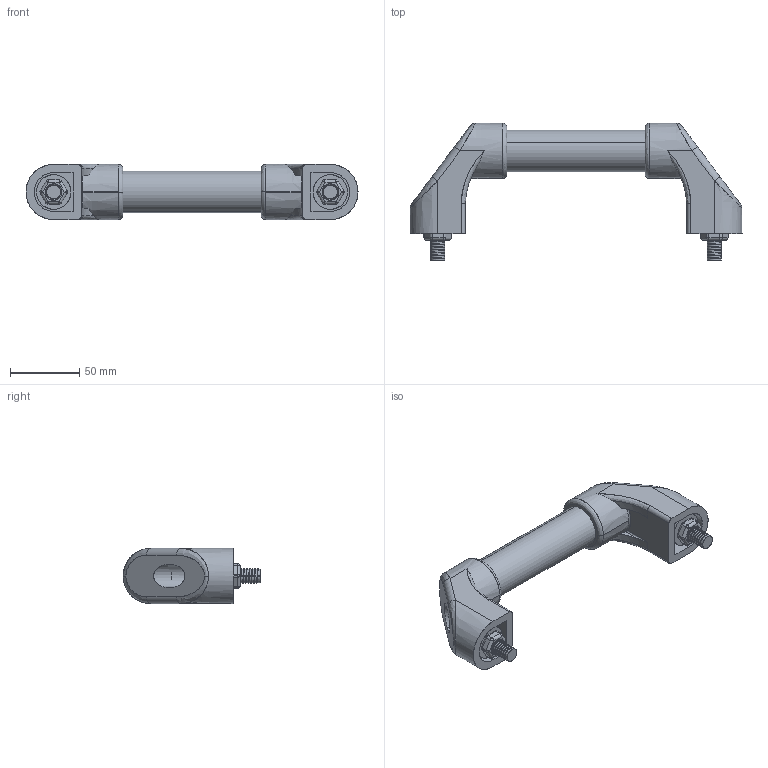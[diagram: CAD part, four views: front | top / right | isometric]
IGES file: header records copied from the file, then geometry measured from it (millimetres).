
Start section: SolidWorks IGES file using analytic representation for surfaces
Global section: file name: C:\Documents and Settings\Deathkiller\桌面\3D IGES\U型把手\MS-737-1-A\P=200.IGS; native system: SolidWorks 2006 by SolidWorks Corporation; preprocessor: SolidWorks 2006 by SolidWorks Corporation; author: Deathkiller; date: 080624.104427; units: millimetre
Bounding box: 240 x 99.5 x 40 mm (x, y, z)
Surface area: 74195.9 mm2 (no closed solid volume)
Topology: 0 solids, 0 shells, 318 faces, 6130 edges, 6114 vertices
Faces by surface type: revolution 210, bspline 108
